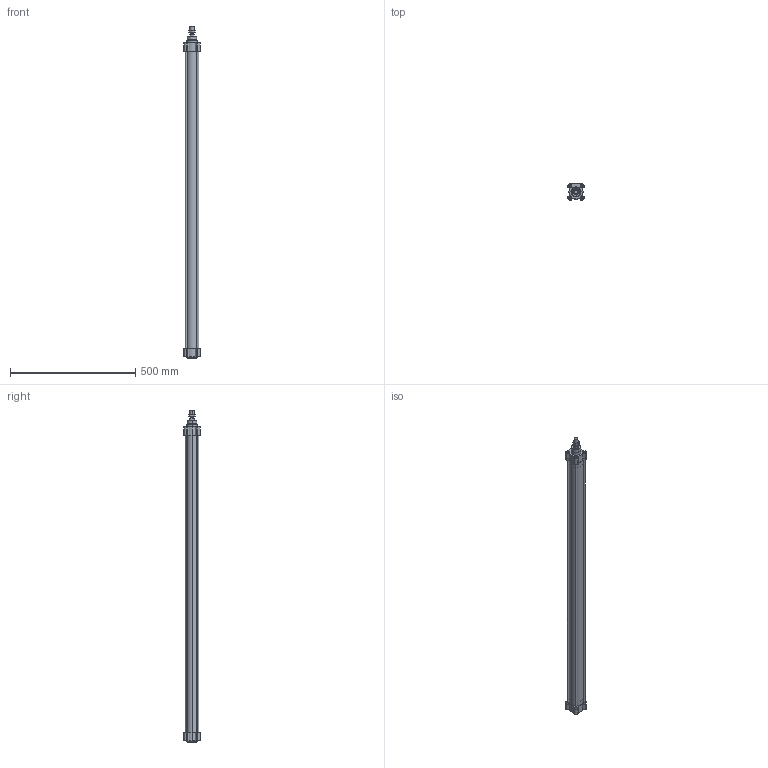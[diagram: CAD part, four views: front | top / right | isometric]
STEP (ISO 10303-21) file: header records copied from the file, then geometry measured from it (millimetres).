
FILE_DESCRIPTION (( 'STEP AP203' ), '1' );
FILE_NAME ('CPME50-1150.STEP', '2024-08-29T15:03:13', ( '' ), ( '' ), 'SwSTEP 2.0', 'SolidWorks 2019', '' );
FILE_SCHEMA (( 'CONFIG_CONTROL_DESIGN' ));
Length unit declared in the file: millimetre
Products named in the file (1): CPME50-1150
Bounding box: 64 x 64 x 1327.8 mm (x, y, z)
Volume: 1430733.4 mm3; surface area: 655585.3 mm2
Topology: 3 solids, 3 shells, 550 faces, 1388 edges, 872 vertices
Faces by surface type: plane 284, cylinder 152, cone 106, torus 8
Entity records: 17016 total; most frequent: CARTESIAN_POINT 3913, ORIENTED_EDGE 2744, DIRECTION 2646, EDGE_CURVE 1372, AXIS2_PLACEMENT_3D 946, VERTEX_POINT 872, LINE 754, VECTOR 754
